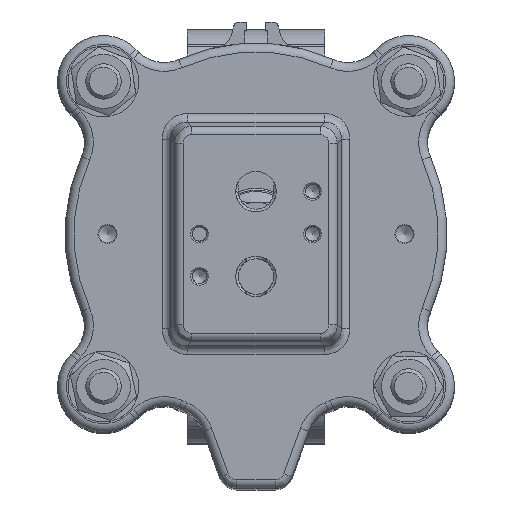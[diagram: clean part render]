
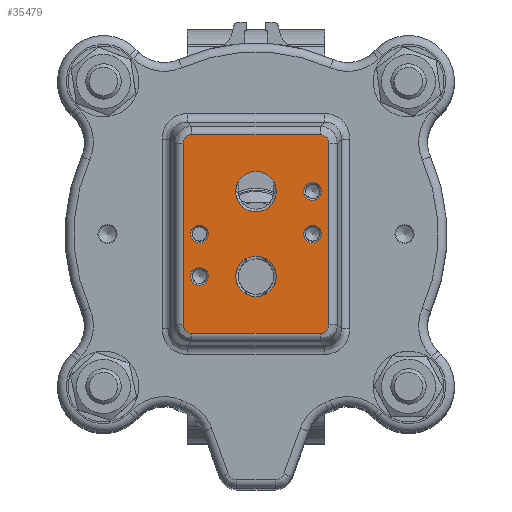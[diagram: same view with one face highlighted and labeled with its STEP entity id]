
A CAD part, top view. The second image highlights one B-rep face of the part: STEP entity #35479.
In plain terms, the highlighted planar face has unit normal (0, 0, 1).
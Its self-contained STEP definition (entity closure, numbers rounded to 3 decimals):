
#148=ELLIPSE('',#38700,2.673,2.5);
#149=ELLIPSE('',#38701,2.673,2.5);
#150=ELLIPSE('',#38702,2.673,2.5);
#151=ELLIPSE('',#38703,2.673,2.5);
#964=FACE_BOUND('',#10497,.T.);
#965=FACE_BOUND('',#10498,.T.);
#966=FACE_BOUND('',#10499,.T.);
#967=FACE_BOUND('',#10500,.T.);
#968=FACE_BOUND('',#10501,.T.);
#969=FACE_BOUND('',#10502,.T.);
#2278=PLANE('',#38699);
#3664=LINE('',#60293,#5705);
#3665=LINE('',#60297,#5706);
#3666=LINE('',#60301,#5707);
#3667=LINE('',#60304,#5708);
#5705=VECTOR('',#46084,10.);
#5706=VECTOR('',#46087,10.);
#5707=VECTOR('',#46090,10.);
#5708=VECTOR('',#46093,10.);
#8207=FACE_OUTER_BOUND('',#10496,.T.);
#10496=EDGE_LOOP('',(#27588,#27589,#27590,#27591,#27592,#27593,#27594,#27595));
#10497=EDGE_LOOP('',(#27596,#27597));
#10498=EDGE_LOOP('',(#27598,#27599));
#10499=EDGE_LOOP('',(#27600));
#10500=EDGE_LOOP('',(#27601));
#10501=EDGE_LOOP('',(#27602));
#10502=EDGE_LOOP('',(#27603));
#12833=CIRCLE('',#38569,5.723);
#12834=CIRCLE('',#38570,5.723);
#12836=CIRCLE('',#38573,5.723);
#12837=CIRCLE('',#38574,5.723);
#12928=CIRCLE('',#38698,2.5);
#12929=CIRCLE('',#38704,2.5);
#12930=CIRCLE('',#38705,2.5);
#12931=CIRCLE('',#38706,2.5);
#15734=VERTEX_POINT('',#59598);
#15735=VERTEX_POINT('',#59600);
#15736=VERTEX_POINT('',#59605);
#15737=VERTEX_POINT('',#59607);
#15838=VERTEX_POINT('',#60285);
#15839=VERTEX_POINT('',#60289);
#15840=VERTEX_POINT('',#60290);
#15841=VERTEX_POINT('',#60292);
#15842=VERTEX_POINT('',#60294);
#15843=VERTEX_POINT('',#60296);
#15844=VERTEX_POINT('',#60298);
#15845=VERTEX_POINT('',#60300);
#15846=VERTEX_POINT('',#60302);
#15847=VERTEX_POINT('',#60305);
#15848=VERTEX_POINT('',#60307);
#15849=VERTEX_POINT('',#60309);
#19956=EDGE_CURVE('',#15735,#15734,#12833,.T.);
#19957=EDGE_CURVE('',#15734,#15735,#12834,.T.);
#19960=EDGE_CURVE('',#15737,#15736,#12836,.T.);
#19961=EDGE_CURVE('',#15736,#15737,#12837,.T.);
#20097=EDGE_CURVE('',#15838,#15838,#12928,.T.);
#20098=EDGE_CURVE('',#15839,#15840,#148,.T.);
#20099=EDGE_CURVE('',#15841,#15839,#3664,.T.);
#20100=EDGE_CURVE('',#15842,#15841,#149,.T.);
#20101=EDGE_CURVE('',#15843,#15842,#3665,.T.);
#20102=EDGE_CURVE('',#15844,#15843,#150,.T.);
#20103=EDGE_CURVE('',#15845,#15844,#3666,.T.);
#20104=EDGE_CURVE('',#15846,#15845,#151,.T.);
#20105=EDGE_CURVE('',#15840,#15846,#3667,.T.);
#20106=EDGE_CURVE('',#15847,#15847,#12929,.T.);
#20107=EDGE_CURVE('',#15848,#15848,#12930,.T.);
#20108=EDGE_CURVE('',#15849,#15849,#12931,.T.);
#27588=ORIENTED_EDGE('',*,*,#20098,.F.);
#27589=ORIENTED_EDGE('',*,*,#20099,.F.);
#27590=ORIENTED_EDGE('',*,*,#20100,.F.);
#27591=ORIENTED_EDGE('',*,*,#20101,.F.);
#27592=ORIENTED_EDGE('',*,*,#20102,.F.);
#27593=ORIENTED_EDGE('',*,*,#20103,.F.);
#27594=ORIENTED_EDGE('',*,*,#20104,.F.);
#27595=ORIENTED_EDGE('',*,*,#20105,.F.);
#27596=ORIENTED_EDGE('',*,*,#19956,.T.);
#27597=ORIENTED_EDGE('',*,*,#19957,.T.);
#27598=ORIENTED_EDGE('',*,*,#19960,.T.);
#27599=ORIENTED_EDGE('',*,*,#19961,.T.);
#27600=ORIENTED_EDGE('',*,*,#20106,.F.);
#27601=ORIENTED_EDGE('',*,*,#20107,.F.);
#27602=ORIENTED_EDGE('',*,*,#20108,.F.);
#27603=ORIENTED_EDGE('',*,*,#20097,.F.);
#35479=ADVANCED_FACE('',(#8207,#964,#965,#966,#967,#968,#969),#2278,.F.);
#38569=AXIS2_PLACEMENT_3D('',#59601,#45792,#45793);
#38570=AXIS2_PLACEMENT_3D('',#59602,#45794,#45795);
#38573=AXIS2_PLACEMENT_3D('',#59608,#45801,#45802);
#38574=AXIS2_PLACEMENT_3D('',#59609,#45803,#45804);
#38698=AXIS2_PLACEMENT_3D('',#60287,#46078,#46079);
#38699=AXIS2_PLACEMENT_3D('',#60288,#46080,#46081);
#38700=AXIS2_PLACEMENT_3D('',#60291,#46082,#46083);
#38701=AXIS2_PLACEMENT_3D('',#60295,#46085,#46086);
#38702=AXIS2_PLACEMENT_3D('',#60299,#46088,#46089);
#38703=AXIS2_PLACEMENT_3D('',#60303,#46091,#46092);
#38704=AXIS2_PLACEMENT_3D('',#60306,#46094,#46095);
#38705=AXIS2_PLACEMENT_3D('',#60308,#46096,#46097);
#38706=AXIS2_PLACEMENT_3D('',#60310,#46098,#46099);
#45792=DIRECTION('center_axis',(0.,0.,
-1.));
#45793=DIRECTION('ref_axis',(0.,-1.,0.));
#45794=DIRECTION('center_axis',(0.,0.,
-1.));
#45795=DIRECTION('ref_axis',(0.,-1.,0.));
#45801=DIRECTION('center_axis',(0.,0.,
-1.));
#45802=DIRECTION('ref_axis',(0.,-1.,0.));
#45803=DIRECTION('center_axis',(0.,0.,
-1.));
#45804=DIRECTION('ref_axis',(0.,-1.,0.));
#46078=DIRECTION('center_axis',(0.,0.,
1.));
#46079=DIRECTION('ref_axis',(0.,1.,0.));
#46080=DIRECTION('center_axis',(0.,0.,
-1.));
#46081=DIRECTION('ref_axis',(0.,1.,0.));
#46082=DIRECTION('center_axis',(0.,0.,
-1.));
#46083=DIRECTION('ref_axis',(-0.707,0.707,0.));
#46084=DIRECTION('',(0.,1.,0.));
#46085=DIRECTION('center_axis',(0.,0.,
-1.));
#46086=DIRECTION('ref_axis',(-0.707,-0.707,0.));
#46087=DIRECTION('',(-1.,0.,0.));
#46088=DIRECTION('center_axis',(0.,0.,
-1.));
#46089=DIRECTION('ref_axis',(0.707,-0.707,0.));
#46090=DIRECTION('',(0.,-1.,0.));
#46091=DIRECTION('center_axis',(0.,0.,
-1.));
#46092=DIRECTION('ref_axis',(0.707,0.707,0.));
#46093=DIRECTION('',(1.,0.,0.));
#46094=DIRECTION('center_axis',(0.,0.,
1.));
#46095=DIRECTION('ref_axis',(0.,1.,0.));
#46096=DIRECTION('center_axis',(0.,0.,
1.));
#46097=DIRECTION('ref_axis',(0.,1.,0.));
#46098=DIRECTION('center_axis',(0.,0.,
1.));
#46099=DIRECTION('ref_axis',(0.,1.,0.));
#59598=CARTESIAN_POINT('',(0.,17.723,520.5));
#59600=CARTESIAN_POINT('',(0.,6.278,520.5));
#59601=CARTESIAN_POINT('Origin',(0.,12.,520.5));
#59602=CARTESIAN_POINT('Origin',(0.,12.,520.5));
#59605=CARTESIAN_POINT('',(0.,-6.277,520.5));
#59607=CARTESIAN_POINT('',(0.,-17.723,520.5));
#59608=CARTESIAN_POINT('Origin',(0.,-12.,520.5));
#59609=CARTESIAN_POINT('Origin',(0.,-12.,520.5));
#60285=CARTESIAN_POINT('',(16.,9.5,520.5));
#60287=CARTESIAN_POINT('Origin',(16.,12.,520.5));
#60288=CARTESIAN_POINT('Origin',(0.,0.,
520.5));
#60289=CARTESIAN_POINT('',(-20.582,25.667,520.5));
#60290=CARTESIAN_POINT('',(-18.167,28.082,520.5));
#60291=CARTESIAN_POINT('Origin',(-17.993,25.493,520.5));
#60292=CARTESIAN_POINT('',(-20.582,-25.667,520.5));
#60293=CARTESIAN_POINT('',(-20.582,15.,520.5));
#60294=CARTESIAN_POINT('',(-18.167,-28.082,520.5));
#60295=CARTESIAN_POINT('Origin',(-17.993,-25.493,520.5));
#60296=CARTESIAN_POINT('',(18.167,-28.082,520.5));
#60297=CARTESIAN_POINT('',(-11.25,-28.082,520.5));
#60298=CARTESIAN_POINT('',(20.582,-25.667,520.5));
#60299=CARTESIAN_POINT('Origin',(17.993,-25.493,520.5));
#60300=CARTESIAN_POINT('',(20.582,25.667,520.5));
#60301=CARTESIAN_POINT('',(20.582,-15.,520.5));
#60302=CARTESIAN_POINT('',(18.167,28.082,520.5));
#60303=CARTESIAN_POINT('Origin',(17.993,25.493,520.5));
#60304=CARTESIAN_POINT('',(11.25,28.082,520.5));
#60305=CARTESIAN_POINT('',(16.,-2.5,520.5));
#60306=CARTESIAN_POINT('Origin',(16.,0.,
520.5));
#60307=CARTESIAN_POINT('',(-16.,-14.5,520.5));
#60308=CARTESIAN_POINT('Origin',(-16.,-12.,520.5));
#60309=CARTESIAN_POINT('',(-16.,-2.5,520.5));
#60310=CARTESIAN_POINT('Origin',(-16.,0.,
520.5));
